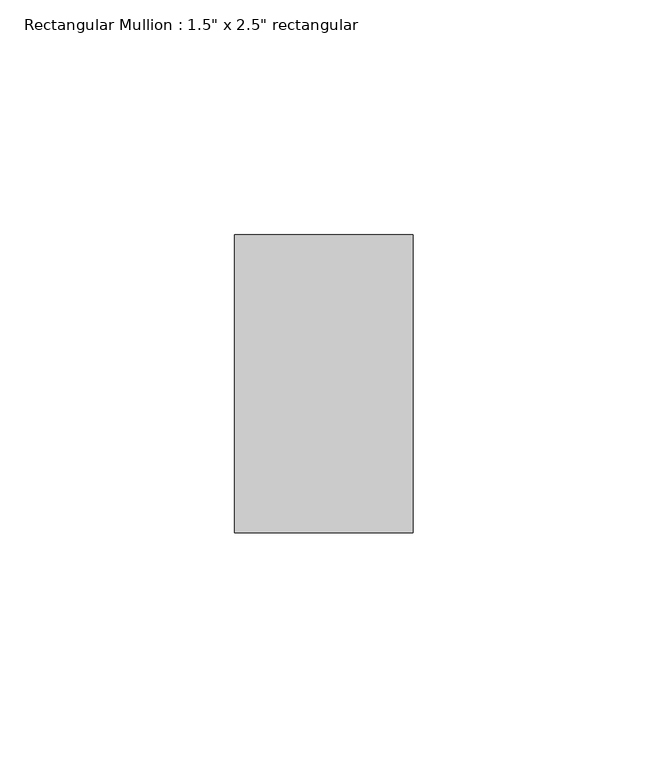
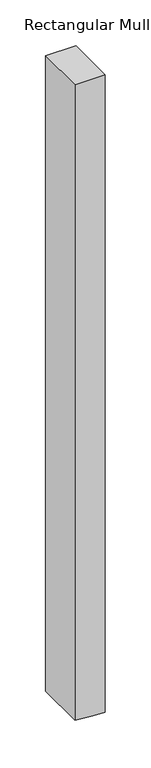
"""IFC4 building model written with IfcOpenShell, lengths in millimetres: member geometry."""

from ifc_helpers import new_model, si_unit, frame, origin, place, context, project, spatial, polyline, outline, extrude, source, transform, mapped, element, save


def member_70ad9082(model_context):
    return source(origin(), model_context, "Body", "SweptSolid", [
        extrude(outline(polyline([(0.0, 19.05), (0.0, -19.05), (-845.1882453, -19.05), (-846.9172854, 3.5937001), (-847.4896692, 19.05), (0.0, 19.05)])), frame((0.0, -31.75, 0.0), z_axis=(0.0, 1.0, 0.0), x_axis=(0.0, 0.0, 1.0)), (0.0, 0.0, 1.0), 63.5),
    ])


if __name__ == "__main__":
    model = new_model("IFC4")
    model_context = context("Model", 3, world=origin())
    ifc_project = project(units=[si_unit("LENGTHUNIT", "METRE", prefix="MILLI")], contexts=[model_context])
    site = spatial("IfcSite", under=ifc_project)
    building = spatial("IfcBuilding", under=site)
    placement = place(None, origin())
    member_shape = member_70ad9082(model_context)
    element("IfcMember", 1, ObjectType="Rectangular Mullion : 1.5\" x 2.5\" rectangular", at=placement, inside=building, context=model_context, shape_type="MappedRepresentation", body=[
        mapped(member_shape, transform((0.0, 0.0, 0.0), x_axis=(1.0, 0.0, 0.0), y_axis=(0.0, 1.0, 0.0), z_axis=(0.0, 0.0, 1.0))),
    ])
    save(model, "model.ifc")
